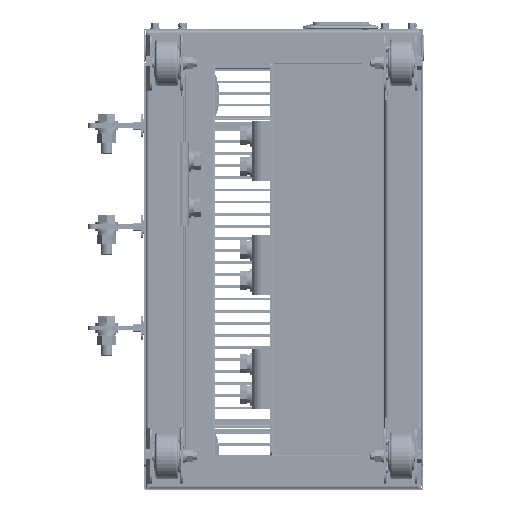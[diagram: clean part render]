
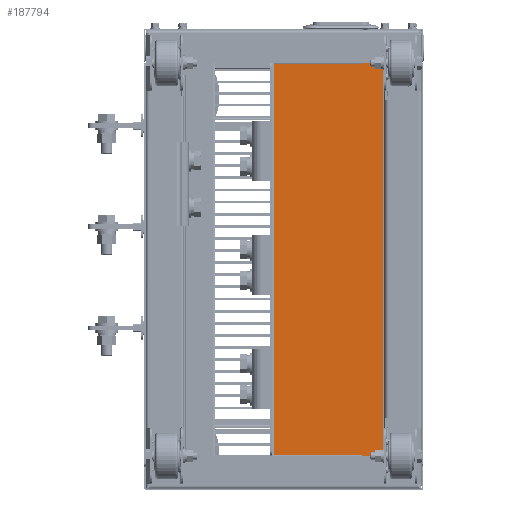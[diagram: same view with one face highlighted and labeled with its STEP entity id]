
A CAD part, front view. The second image highlights one B-rep face of the part: STEP entity #187794.
In plain terms, the highlighted planar face has unit normal (0, -1, 0) as drawn and (0, 1, 0) by its records, which use the part's own axes.
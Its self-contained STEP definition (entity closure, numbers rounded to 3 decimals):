
#186080=DIRECTION('',(0.,0.,-1.));
#186081=VECTOR('',#186080,421.9);
#186082=CARTESIAN_POINT('',(119.,0.,210.95));
#186083=LINE('',#186082,#186081);
#186087=DIRECTION('',(-1.,0.,0.));
#186088=VECTOR('',#186087,22.);
#186089=CARTESIAN_POINT('',(119.,0.,210.95));
#186090=LINE('',#186089,#186088);
#186094=DIRECTION('',(0.,0.,-1.));
#186095=VECTOR('',#186094,1.);
#186096=CARTESIAN_POINT('',(97.,0.,210.95));
#186097=LINE('',#186096,#186095);
#186101=DIRECTION('',(1.,0.,0.));
#186102=VECTOR('',#186101,22.);
#186103=CARTESIAN_POINT('',(97.,0.,-210.95));
#186104=LINE('',#186103,#186102);
#186187=DIRECTION('',(0.,0.,1.));
#186188=VECTOR('',#186187,2.);
#186189=CARTESIAN_POINT('',(97.,0.,-210.95));
#186190=LINE('',#186189,#186188);
#186231=DIRECTION('',(-1.,0.,0.));
#186232=VECTOR('',#186231,95.);
#186233=CARTESIAN_POINT('',(97.,0.,-208.95));
#186234=LINE('',#186233,#186232);
#186530=DIRECTION('',(0.,0.,1.));
#186531=VECTOR('',#186530,418.9);
#186532=CARTESIAN_POINT('',(2.,0.,-208.95));
#186533=LINE('',#186532,#186531);
#186664=DIRECTION('',(1.,0.,0.));
#186665=VECTOR('',#186664,95.);
#186666=CARTESIAN_POINT('',(2.,0.,209.95));
#186667=LINE('',#186666,#186665);
#187470=CARTESIAN_POINT('',(119.,0.,210.95));
#187471=VERTEX_POINT('',#187470);
#187474=CARTESIAN_POINT('',(119.,0.,-210.95));
#187475=VERTEX_POINT('',#187474);
#187476=CARTESIAN_POINT('',(97.,0.,210.95));
#187477=VERTEX_POINT('',#187476);
#187478=CARTESIAN_POINT('',(97.,0.,209.95));
#187479=VERTEX_POINT('',#187478);
#187480=CARTESIAN_POINT('',(2.,0.,209.95));
#187481=VERTEX_POINT('',#187480);
#187482=CARTESIAN_POINT('',(2.,0.,-208.95));
#187483=VERTEX_POINT('',#187482);
#187484=CARTESIAN_POINT('',(97.,0.,-208.95));
#187485=VERTEX_POINT('',#187484);
#187486=CARTESIAN_POINT('',(97.,0.,-210.95));
#187487=VERTEX_POINT('',#187486);
#187772=CARTESIAN_POINT('',(0.,0.,0.));
#187773=DIRECTION('',(0.,1.,0.));
#187774=DIRECTION('',(1.,0.,0.));
#187775=AXIS2_PLACEMENT_3D('',#187772,#187773,#187774);
#187776=PLANE('',#187775);
#187778=ORIENTED_EDGE('',*,*,#187777,.T.);
#187780=ORIENTED_EDGE('',*,*,#187779,.T.);
#187782=ORIENTED_EDGE('',*,*,#187781,.F.);
#187784=ORIENTED_EDGE('',*,*,#187783,.F.);
#187786=ORIENTED_EDGE('',*,*,#187785,.F.);
#187788=ORIENTED_EDGE('',*,*,#187787,.F.);
#187790=ORIENTED_EDGE('',*,*,#187789,.T.);
#187791=ORIENTED_EDGE('',*,*,#187765,.F.);
#187792=EDGE_LOOP('',(#187778,#187780,#187782,#187784,#187786,#187788,#187790,
#187791));
#187793=FACE_OUTER_BOUND('',#187792,.F.);
#187765=EDGE_CURVE('',#187471,#187475,#186083,.T.);
#187777=EDGE_CURVE('',#187471,#187477,#186090,.T.);
#187779=EDGE_CURVE('',#187477,#187479,#186097,.T.);
#187781=EDGE_CURVE('',#187481,#187479,#186667,.T.);
#187783=EDGE_CURVE('',#187483,#187481,#186533,.T.);
#187785=EDGE_CURVE('',#187485,#187483,#186234,.T.);
#187787=EDGE_CURVE('',#187487,#187485,#186190,.T.);
#187789=EDGE_CURVE('',#187487,#187475,#186104,.T.);
#187794=ADVANCED_FACE('',(#187793),#187776,.T.);
